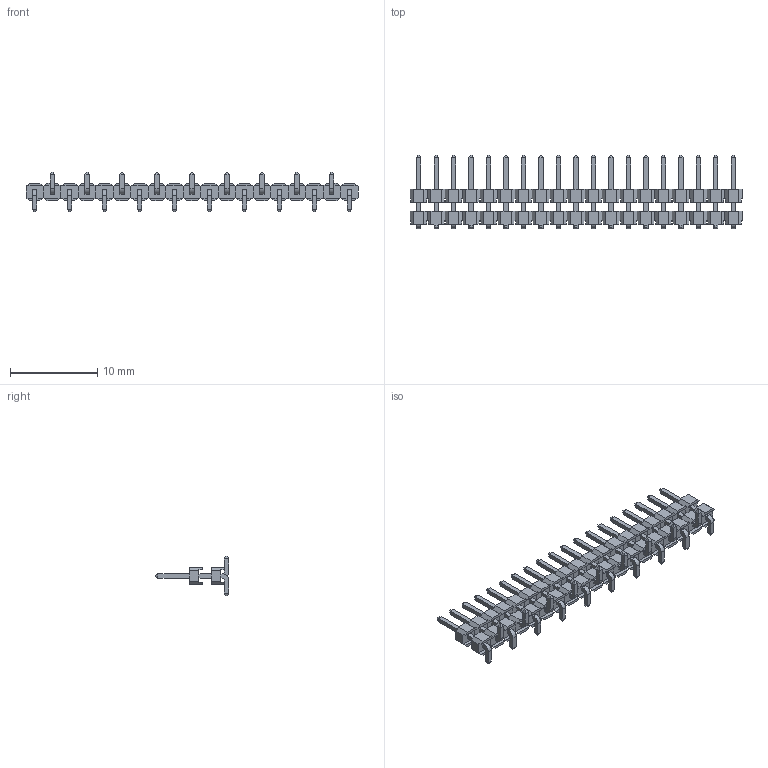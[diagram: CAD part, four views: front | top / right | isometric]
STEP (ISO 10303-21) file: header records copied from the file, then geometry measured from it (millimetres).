
FILE_DESCRIPTION(/* description */ (''),/* implementation_level */ '2;1');
FILE_NAME(/* name */ 'PZ200-1-19-S-C4.0-XX-X-DP(L8.4)-2(2.00 单排 排针 双塑 贴片-HCTL).stp',/* time_stamp */ '2026-10-23T09:39:04+08:00',/* author */ (''),/* organization */ (''),/* preprocessor_version */ 'ST-DEVELOPER v16',/* originating_system */ 'SIEMENS PLM Software NX 10.0',/* authorisation */ '');
FILE_SCHEMA (('AUTOMOTIVE_DESIGN { 1 0 10303 214 3 1 1 1 }'));
Length unit declared in the file: millimetre
Products named in the file (1): PZ200-1-N-S-C4.0-XX-X-DP(L8.4)-2(2.00 单排 排针 
双塑 贴片-HCTL) 
Bounding box: 38 x 8.4 x 4.5 mm (x, y, z)
Volume: 204.2 mm3; surface area: 968 mm2
Topology: 19 solids, 19 shells, 1064 faces, 2736 edges, 1748 vertices
Faces by surface type: plane 1026, cylinder 38
Entity records: 35174 total; most frequent: CARTESIAN_POINT 5549, ORIENTED_EDGE 5472, DIRECTION 4942, EDGE_CURVE 2736, LINE 2660, VECTOR 2660, VERTEX_POINT 1748, AXIS2_PLACEMENT_3D 1141
